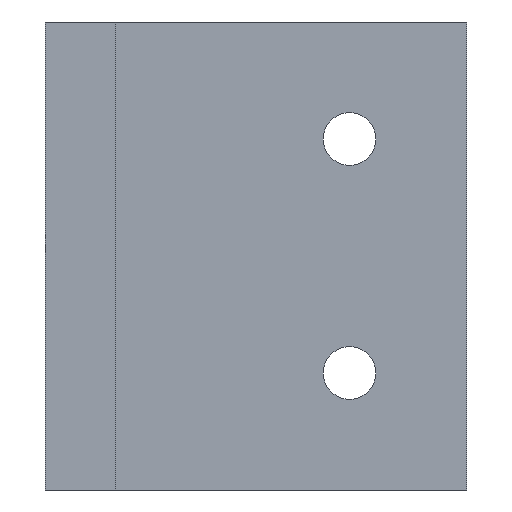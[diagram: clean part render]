
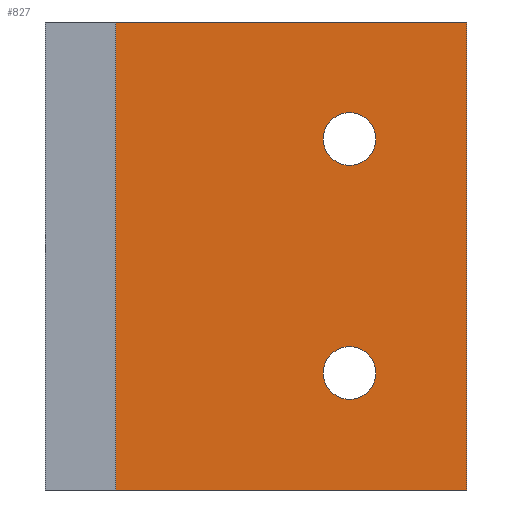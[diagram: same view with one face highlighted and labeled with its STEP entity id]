
A CAD part, front view. The second image highlights one B-rep face of the part: STEP entity #827.
In plain terms, the highlighted planar face has unit normal (0, -1, 0).
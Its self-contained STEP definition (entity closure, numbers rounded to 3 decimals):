
#236 = VERTEX_POINT('',#237);
#237 = CARTESIAN_POINT('',(101.,21.,-150.));
#251 = PLANE('',#252);
#252 = AXIS2_PLACEMENT_3D('',#253,#254,#255);
#253 = CARTESIAN_POINT('',(101.,6.,-190.));
#254 = DIRECTION('',(1.,0.,-0.));
#255 = DIRECTION('',(0.,0.,1.));
#425 = VERTEX_POINT('',#426);
#426 = CARTESIAN_POINT('',(101.,21.,-190.));
#597 = PLANE('',#598);
#598 = AXIS2_PLACEMENT_3D('',#599,#600,#601);
#599 = CARTESIAN_POINT('',(95.,21.,-150.));
#600 = DIRECTION('',(0.,0.,1.));
#601 = DIRECTION('',(1.,0.,-0.));
#636 = EDGE_CURVE('',#425,#236,#637,.T.);
#637 = SURFACE_CURVE('',#638,(#642,#648),.PCURVE_S1.);
#638 = LINE('',#639,#640);
#639 = CARTESIAN_POINT('',(101.,21.,-190.));
#640 = VECTOR('',#641,1.);
#641 = DIRECTION('',(0.,0.,1.));
#642 = PCURVE('',#251,#643);
#643 = DEFINITIONAL_REPRESENTATION('',(#644),#647);
#644 = B_SPLINE_CURVE_WITH_KNOTS('',1,(#645,#646),.UNSPECIFIED.,.F.,.F.,
  (2,2),(0.,40.),.PIECEWISE_BEZIER_KNOTS.);
#645 = CARTESIAN_POINT('',(0.,-15.));
#646 = CARTESIAN_POINT('',(40.,-15.));
#647 = ( GEOMETRIC_REPRESENTATION_CONTEXT(2) 
PARAMETRIC_REPRESENTATION_CONTEXT() REPRESENTATION_CONTEXT('2D SPACE',''
  ) );
#648 = PCURVE('',#649,#654);
#649 = PLANE('',#650);
#650 = AXIS2_PLACEMENT_3D('',#651,#652,#653);
#651 = CARTESIAN_POINT('',(95.,21.,-190.));
#652 = DIRECTION('',(-0.,1.,0.));
#653 = DIRECTION('',(0.,0.,1.));
#654 = DEFINITIONAL_REPRESENTATION('',(#655),#658);
#655 = B_SPLINE_CURVE_WITH_KNOTS('',1,(#656,#657),.UNSPECIFIED.,.F.,.F.,
  (2,2),(0.,40.),.PIECEWISE_BEZIER_KNOTS.);
#656 = CARTESIAN_POINT('',(0.,6.));
#657 = CARTESIAN_POINT('',(40.,6.));
#658 = ( GEOMETRIC_REPRESENTATION_CONTEXT(2) 
PARAMETRIC_REPRESENTATION_CONTEXT() REPRESENTATION_CONTEXT('2D SPACE',''
  ) );
#739 = PLANE('',#740);
#740 = AXIS2_PLACEMENT_3D('',#741,#742,#743);
#741 = CARTESIAN_POINT('',(95.,21.,-190.));
#742 = DIRECTION('',(0.,0.,1.));
#743 = DIRECTION('',(1.,0.,-0.));
#756 = EDGE_CURVE('',#236,#757,#759,.T.);
#757 = VERTEX_POINT('',#758);
#758 = CARTESIAN_POINT('',(131.,21.,-150.));
#759 = SURFACE_CURVE('',#760,(#764,#771),.PCURVE_S1.);
#760 = LINE('',#761,#762);
#761 = CARTESIAN_POINT('',(95.,21.,-150.));
#762 = VECTOR('',#763,1.);
#763 = DIRECTION('',(1.,0.,-0.));
#764 = PCURVE('',#597,#765);
#765 = DEFINITIONAL_REPRESENTATION('',(#766),#770);
#766 = LINE('',#767,#768);
#767 = CARTESIAN_POINT('',(0.,0.));
#768 = VECTOR('',#769,1.);
#769 = DIRECTION('',(1.,0.));
#770 = ( GEOMETRIC_REPRESENTATION_CONTEXT(2) 
PARAMETRIC_REPRESENTATION_CONTEXT() REPRESENTATION_CONTEXT('2D SPACE',''
  ) );
#771 = PCURVE('',#649,#772);
#772 = DEFINITIONAL_REPRESENTATION('',(#773),#777);
#773 = LINE('',#774,#775);
#774 = CARTESIAN_POINT('',(40.,0.));
#775 = VECTOR('',#776,1.);
#776 = DIRECTION('',(0.,1.));
#777 = ( GEOMETRIC_REPRESENTATION_CONTEXT(2) 
PARAMETRIC_REPRESENTATION_CONTEXT() REPRESENTATION_CONTEXT('2D SPACE',''
  ) );
#795 = PLANE('',#796);
#796 = AXIS2_PLACEMENT_3D('',#797,#798,#799);
#797 = CARTESIAN_POINT('',(131.,21.,-190.));
#798 = DIRECTION('',(1.,0.,-0.));
#799 = DIRECTION('',(0.,0.,1.));
#827 = ADVANCED_FACE('',(#828,#876,#907),#649,.F.);
#828 = FACE_BOUND('',#829,.F.);
#829 = EDGE_LOOP('',(#830,#853,#854,#855));
#830 = ORIENTED_EDGE('',*,*,#831,.F.);
#831 = EDGE_CURVE('',#425,#832,#834,.T.);
#832 = VERTEX_POINT('',#833);
#833 = CARTESIAN_POINT('',(131.,21.,-190.));
#834 = SURFACE_CURVE('',#835,(#839,#846),.PCURVE_S1.);
#835 = LINE('',#836,#837);
#836 = CARTESIAN_POINT('',(95.,21.,-190.));
#837 = VECTOR('',#838,1.);
#838 = DIRECTION('',(1.,0.,-0.));
#839 = PCURVE('',#649,#840);
#840 = DEFINITIONAL_REPRESENTATION('',(#841),#845);
#841 = LINE('',#842,#843);
#842 = CARTESIAN_POINT('',(0.,0.));
#843 = VECTOR('',#844,1.);
#844 = DIRECTION('',(0.,1.));
#845 = ( GEOMETRIC_REPRESENTATION_CONTEXT(2) 
PARAMETRIC_REPRESENTATION_CONTEXT() REPRESENTATION_CONTEXT('2D SPACE',''
  ) );
#846 = PCURVE('',#739,#847);
#847 = DEFINITIONAL_REPRESENTATION('',(#848),#852);
#848 = LINE('',#849,#850);
#849 = CARTESIAN_POINT('',(0.,0.));
#850 = VECTOR('',#851,1.);
#851 = DIRECTION('',(1.,0.));
#852 = ( GEOMETRIC_REPRESENTATION_CONTEXT(2) 
PARAMETRIC_REPRESENTATION_CONTEXT() REPRESENTATION_CONTEXT('2D SPACE',''
  ) );
#853 = ORIENTED_EDGE('',*,*,#636,.T.);
#854 = ORIENTED_EDGE('',*,*,#756,.T.);
#855 = ORIENTED_EDGE('',*,*,#856,.F.);
#856 = EDGE_CURVE('',#832,#757,#857,.T.);
#857 = SURFACE_CURVE('',#858,(#862,#869),.PCURVE_S1.);
#858 = LINE('',#859,#860);
#859 = CARTESIAN_POINT('',(131.,21.,-190.));
#860 = VECTOR('',#861,1.);
#861 = DIRECTION('',(0.,0.,1.));
#862 = PCURVE('',#649,#863);
#863 = DEFINITIONAL_REPRESENTATION('',(#864),#868);
#864 = LINE('',#865,#866);
#865 = CARTESIAN_POINT('',(0.,36.));
#866 = VECTOR('',#867,1.);
#867 = DIRECTION('',(1.,0.));
#868 = ( GEOMETRIC_REPRESENTATION_CONTEXT(2) 
PARAMETRIC_REPRESENTATION_CONTEXT() REPRESENTATION_CONTEXT('2D SPACE',''
  ) );
#869 = PCURVE('',#795,#870);
#870 = DEFINITIONAL_REPRESENTATION('',(#871),#875);
#871 = LINE('',#872,#873);
#872 = CARTESIAN_POINT('',(0.,0.));
#873 = VECTOR('',#874,1.);
#874 = DIRECTION('',(1.,0.));
#875 = ( GEOMETRIC_REPRESENTATION_CONTEXT(2) 
PARAMETRIC_REPRESENTATION_CONTEXT() REPRESENTATION_CONTEXT('2D SPACE',''
  ) );
#876 = FACE_BOUND('',#877,.F.);
#877 = EDGE_LOOP('',(#878));
#878 = ORIENTED_EDGE('',*,*,#879,.F.);
#879 = EDGE_CURVE('',#880,#880,#882,.T.);
#880 = VERTEX_POINT('',#881);
#881 = CARTESIAN_POINT('',(121.,21.,-177.75));
#882 = SURFACE_CURVE('',#883,(#888,#895),.PCURVE_S1.);
#883 = CIRCLE('',#884,2.25);
#884 = AXIS2_PLACEMENT_3D('',#885,#886,#887);
#885 = CARTESIAN_POINT('',(121.,21.,-180.));
#886 = DIRECTION('',(0.,1.,0.));
#887 = DIRECTION('',(0.,-0.,1.));
#888 = PCURVE('',#649,#889);
#889 = DEFINITIONAL_REPRESENTATION('',(#890),#894);
#890 = CIRCLE('',#891,2.25);
#891 = AXIS2_PLACEMENT_2D('',#892,#893);
#892 = CARTESIAN_POINT('',(10.,26.));
#893 = DIRECTION('',(1.,0.));
#894 = ( GEOMETRIC_REPRESENTATION_CONTEXT(2) 
PARAMETRIC_REPRESENTATION_CONTEXT() REPRESENTATION_CONTEXT('2D SPACE',''
  ) );
#895 = PCURVE('',#896,#901);
#896 = CYLINDRICAL_SURFACE('',#897,2.25);
#897 = AXIS2_PLACEMENT_3D('',#898,#899,#900);
#898 = CARTESIAN_POINT('',(121.,20.,-180.));
#899 = DIRECTION('',(0.,1.,0.));
#900 = DIRECTION('',(0.,-0.,1.));
#901 = DEFINITIONAL_REPRESENTATION('',(#902),#906);
#902 = LINE('',#903,#904);
#903 = CARTESIAN_POINT('',(0.,1.));
#904 = VECTOR('',#905,1.);
#905 = DIRECTION('',(1.,0.));
#906 = ( GEOMETRIC_REPRESENTATION_CONTEXT(2) 
PARAMETRIC_REPRESENTATION_CONTEXT() REPRESENTATION_CONTEXT('2D SPACE',''
  ) );
#907 = FACE_BOUND('',#908,.F.);
#908 = EDGE_LOOP('',(#909));
#909 = ORIENTED_EDGE('',*,*,#910,.F.);
#910 = EDGE_CURVE('',#911,#911,#913,.T.);
#911 = VERTEX_POINT('',#912);
#912 = CARTESIAN_POINT('',(121.,21.,-157.75));
#913 = SURFACE_CURVE('',#914,(#919,#926),.PCURVE_S1.);
#914 = CIRCLE('',#915,2.25);
#915 = AXIS2_PLACEMENT_3D('',#916,#917,#918);
#916 = CARTESIAN_POINT('',(121.,21.,-160.));
#917 = DIRECTION('',(0.,1.,0.));
#918 = DIRECTION('',(0.,-0.,1.));
#919 = PCURVE('',#649,#920);
#920 = DEFINITIONAL_REPRESENTATION('',(#921),#925);
#921 = CIRCLE('',#922,2.25);
#922 = AXIS2_PLACEMENT_2D('',#923,#924);
#923 = CARTESIAN_POINT('',(30.,26.));
#924 = DIRECTION('',(1.,0.));
#925 = ( GEOMETRIC_REPRESENTATION_CONTEXT(2) 
PARAMETRIC_REPRESENTATION_CONTEXT() REPRESENTATION_CONTEXT('2D SPACE',''
  ) );
#926 = PCURVE('',#927,#932);
#927 = CYLINDRICAL_SURFACE('',#928,2.25);
#928 = AXIS2_PLACEMENT_3D('',#929,#930,#931);
#929 = CARTESIAN_POINT('',(121.,20.,-160.));
#930 = DIRECTION('',(0.,1.,0.));
#931 = DIRECTION('',(0.,-0.,1.));
#932 = DEFINITIONAL_REPRESENTATION('',(#933),#937);
#933 = LINE('',#934,#935);
#934 = CARTESIAN_POINT('',(0.,1.));
#935 = VECTOR('',#936,1.);
#936 = DIRECTION('',(1.,0.));
#937 = ( GEOMETRIC_REPRESENTATION_CONTEXT(2) 
PARAMETRIC_REPRESENTATION_CONTEXT() REPRESENTATION_CONTEXT('2D SPACE',''
  ) );
